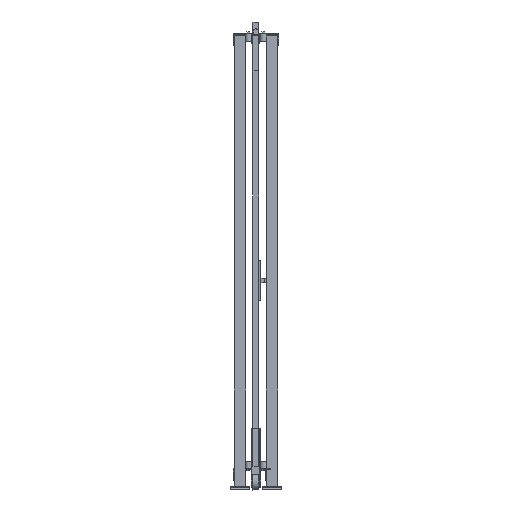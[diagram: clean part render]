
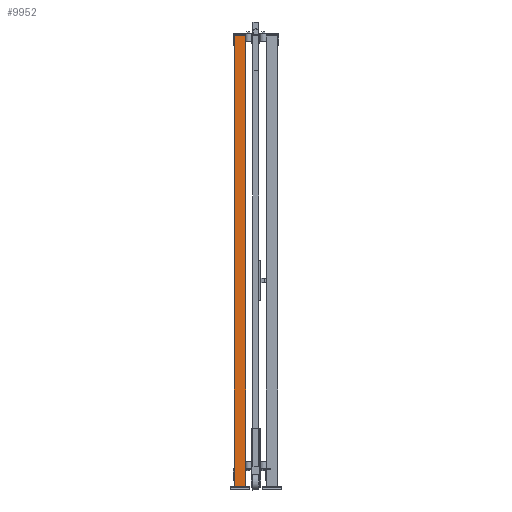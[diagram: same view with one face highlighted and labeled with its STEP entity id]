
A CAD part, left-side view. The second image highlights one B-rep face of the part: STEP entity #9952.
In plain terms, the highlighted planar face has unit normal (-1, 0, 0) as drawn and (0, 1, 0) by its records, which use the part's own axes.
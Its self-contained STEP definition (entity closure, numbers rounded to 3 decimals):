
#1036=FACE_OUTER_BOUND('',#1788,.T.);
#1788=EDGE_LOOP('',(#6242,#6243,#6244,#6245));
#2639=VERTEX_POINT('',#21269);
#2640=VERTEX_POINT('',#21271);
#2642=VERTEX_POINT('',#21277);
#2645=VERTEX_POINT('',#21282);
#4059=EDGE_CURVE('',#2639,#2640,#11768,.T.);
#4065=EDGE_CURVE('',#2645,#2642,#11774,.T.);
#4068=EDGE_CURVE('',#2640,#2645,#11777,.T.);
#4069=EDGE_CURVE('',#2639,#2642,#11778,.T.);
#6242=ORIENTED_EDGE('',*,*,#4069,.T.);
#6243=ORIENTED_EDGE('',*,*,#4065,.F.);
#6244=ORIENTED_EDGE('',*,*,#4068,.F.);
#6245=ORIENTED_EDGE('',*,*,#4059,.F.);
#9268=PLANE('',#15062);
#9952=ADVANCED_FACE('',(#1036),#9268,.F.);
#11768=LINE('',#21272,#13557);
#11774=LINE('',#21284,#13563);
#11777=LINE('',#21289,#13566);
#11778=LINE('',#21291,#13567);
#13557=VECTOR('',#16793,1.);
#13563=VECTOR('',#16801,1.);
#13566=VECTOR('',#16808,1.);
#13567=VECTOR('',#16811,1.);
#15062=AXIS2_PLACEMENT_3D('',#21290,#16809,#16810);
#16793=DIRECTION('',(-1.,0.,0.));
#16801=DIRECTION('',(1.,0.,0.));
#16808=DIRECTION('',(0.,0.,-1.));
#16809=DIRECTION('center_axis',(0.,-1.,0.));
#16810=DIRECTION('ref_axis',(0.,0.,-1.));
#16811=DIRECTION('',(0.,0.,-1.));
#21269=CARTESIAN_POINT('',(30.,30.,2320.));
#21271=CARTESIAN_POINT('',(-30.,30.,2320.));
#21272=CARTESIAN_POINT('',(0.,30.,2320.));
#21277=CARTESIAN_POINT('',(30.,30.,20.));
#21282=CARTESIAN_POINT('',(-30.,30.,20.));
#21284=CARTESIAN_POINT('',(0.,30.,20.));
#21289=CARTESIAN_POINT('',(-30.,30.,1170.));
#21290=CARTESIAN_POINT('Origin',(0.,30.,
1170.));
#21291=CARTESIAN_POINT('',(30.,30.,1170.));
